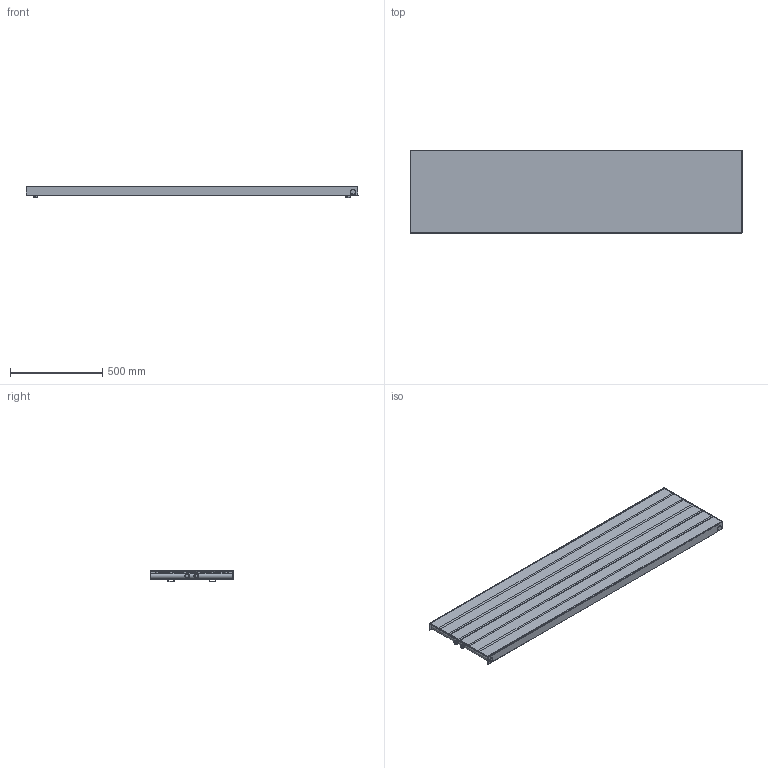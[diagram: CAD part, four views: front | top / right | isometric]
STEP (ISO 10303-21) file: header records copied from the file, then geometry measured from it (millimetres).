
FILE_DESCRIPTION(/* description */ (''),/* implementation_level */ '2;1');
FILE_NAME(/* name */ 'C:\Grzejniki\13DLUXRAD\pokojowe\NIAGARA\to\NIAGARA z osłoną w kolorze standardowym 1800x450.iam.stp',/* time_stamp */ '2016-06-28T17:34:15+02:00',/* author */ ('m.szydziak'),/* organization */ (''),/* preprocessor_version */ 'ST-DEVELOPER v16.5',/* originating_system */ 'Autodesk Inventor 2017',/* authorisation */ '');
FILE_SCHEMA (('AUTOMOTIVE_DESIGN { 1 0 10303 214 3 1 1 }'));
Length unit declared in the file: millimetre
Products named in the file (12): NIAGARA z osłoną w kolorze standa
rdowym 1800x450; NIAGARA 1800x450 osłona; NIAGARA 1800x445 ZDC; fi30x1,5x445; 70x8x1,2x1804; michałek; ucho duze; ucho duze 2; poprzeczka 395; ZDC dzwonki; dzwonek G0,5inch; korek
Assembly tree (33 placements, depth 4):
  NIAGARA z osłoną w kolorze standa
rdowym 1800x450
    NIAGARA 1800x450 osłona
    NIAGARA 1800x445 ZDC
      fi30x1,5x445  x2
      70x8x1,2x1804  x6
      michałek  x12
      ucho duze  x2
      ucho duze 2  x2
      poprzeczka 395  x3
      ZDC dzwonki
        dzwonek G0,5inch  x2
      korek
Bounding box: 1802 x 453.5 x 63.3 mm (x, y, z)
Volume: 2905984 mm3; surface area: 5411864.6 mm2
Topology: 31 solids, 31 shells, 453 faces, 1023 edges, 632 vertices
Faces by surface type: plane 227, cylinder 174, sphere 48, cone 2, bspline 2
Full cylindrical faces by diameter (mm): 8 x12, 9 x12, 10 x24, 11.5 x12, 16 x2, 18.5 x2, 18.631 x6, 22.9 x2, 24 x1, 25.3 x2, 27 x2, 30 x2
Entity records: 5742 total; most frequent: CARTESIAN_POINT 1346, DIRECTION 902, ORIENTED_EDGE 758, EDGE_CURVE 379, AXIS2_PLACEMENT_3D 330, VERTEX_POINT 246, LINE 242, VECTOR 242
